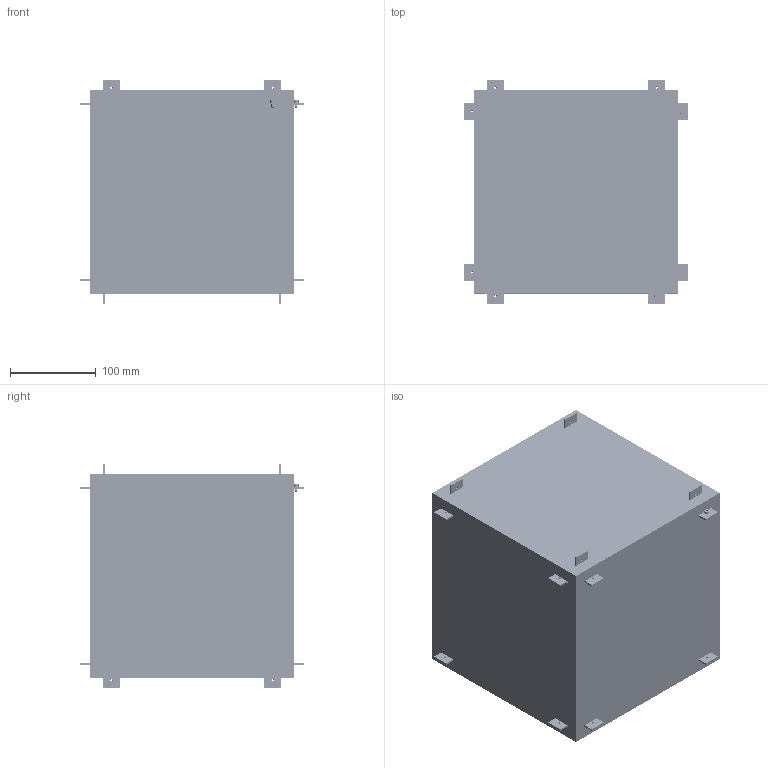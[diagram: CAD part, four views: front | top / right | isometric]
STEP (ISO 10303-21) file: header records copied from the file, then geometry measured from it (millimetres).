
FILE_DESCRIPTION (( 'STEP AP214' ), '1' );
FILE_NAME ('ASSIEME sezione scatola media.STEP', '2016-02-27T07:57:35', ( '' ), ( '' ), 'SwSTEP 2.0', 'SolidWorks 2012', '' );
FILE_SCHEMA (( 'AUTOMOTIVE_DESIGN' ));
Length unit declared in the file: millimetre
Products named in the file (16): SC8; SC7; SC5; SC15; SC13; vite alluminio M3; vite M2 x 4; vite M2 x 8; SC39_2; SC70; SC67; SC42; ASSIEME sezione scatola media; SC35; SC6_2; SC66
Assembly tree (67 placements, depth 2):
  ASSIEME sezione scatola media
    SC5
    SC7  x11
    SC8  x4
    SC15  x12
    SC13  x12
    SC35
    SC42
    SC66  x3
    vite alluminio M3  x6
    SC67
    SC70
    SC6_2  x10
    SC39_2  x2
    vite M2 x 4
    vite M2 x 8
Bounding box: 260 x 260 x 260 mm (x, y, z)
Volume: 1239603.2 mm3; surface area: 1309498.7 mm2
Topology: 67 solids, 67 shells, 4010 faces, 10758 edges, 6914 vertices
Faces by surface type: cylinder 1830, cone 1278, plane 738, bspline 164
Entity records: 37674 total; most frequent: CARTESIAN_POINT 8176, DIRECTION 6326, ORIENTED_EDGE 5676, EDGE_CURVE 2838, AXIS2_PLACEMENT_3D 2520, VERTEX_POINT 1846, EDGE_LOOP 1614, CIRCLE 1462
